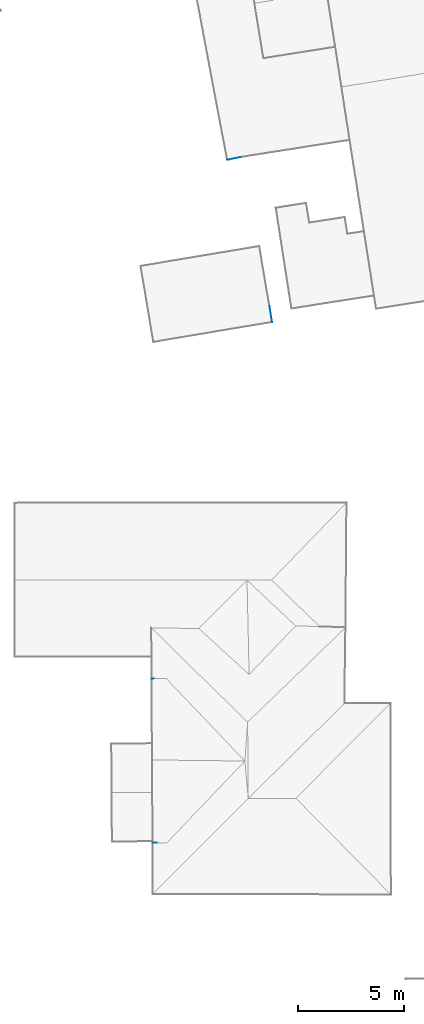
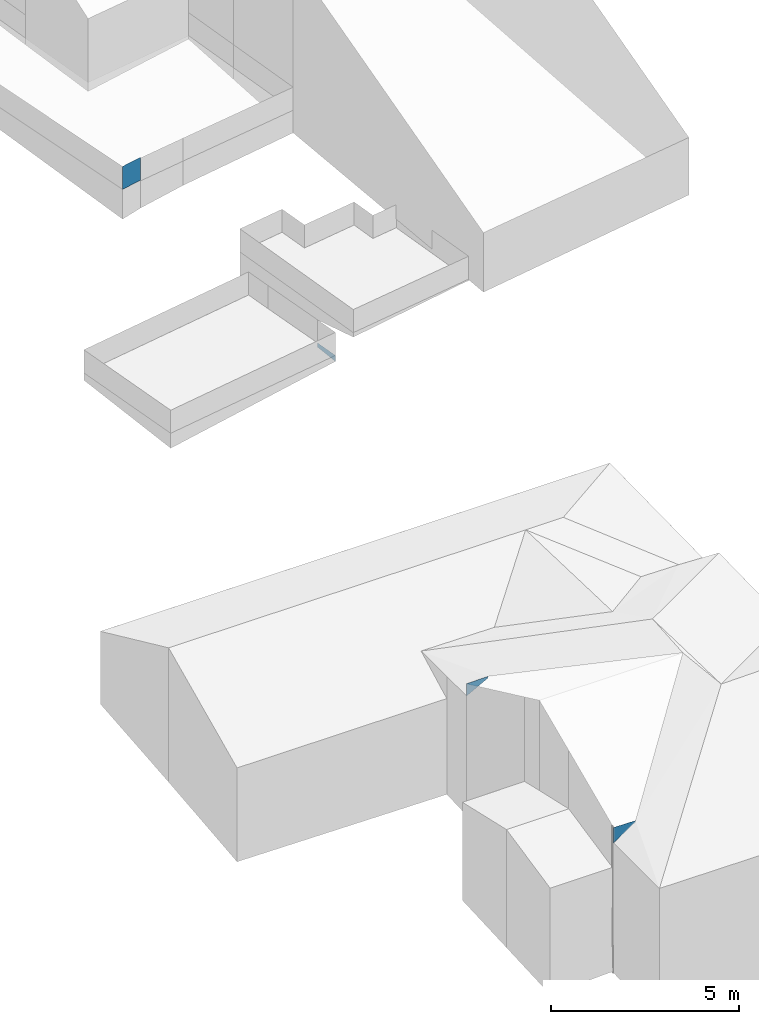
# Not in any storey, part 49 of 57: 5 walls.
"""IFC2X3 building model written with IfcOpenShell, lengths in metres."""

from ifc_helpers import new_model, entity, si_unit, converted_unit, frame, origin, place, context, subcontext, project, spatial, face_set, surface_model, element, save


model = new_model("IFC2X3")

# Units and contexts
model_context = context("Model", 3, precision=1e-05, world=origin())
body_context = subcontext(model_context, "Body", "Model", "MODEL_VIEW")
ifc_project = project(units=[converted_unit("PLANEANGLEUNIT", "DEGREE", entity("IfcRatioMeasure", 0.0174532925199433), si_unit("PLANEANGLEUNIT", "RADIAN"), dimensions=[0, 0, 0, 0, 0, 0, 0]), si_unit("AREAUNIT", "SQUARE_METRE"), si_unit("LENGTHUNIT", "METRE")], contexts=[model_context])

# Site, building
site_placement = place(None, origin())
site = spatial("IfcSite", under=ifc_project, at=site_placement, Name="_site", CompositionType="ELEMENT")
building_1_placement = place(site_placement, origin())
building_1 = spatial("IfcBuilding", under=site, at=building_1_placement, Name="_building", CompositionType="ELEMENT")

# Wall
wall_1_placement = place(building_1_placement, origin())
element("IfcWall", 1, at=wall_1_placement, inside=building_1, Name="Wall", context=body_context, shape_type="SurfaceModel", body=[
    surface_model("IfcFaceBasedSurfaceModel", [(157.86, 227.33, 218.61), (157.98, 226.59, 218.61), (157.98, 226.59, 218.413), (157.86, 227.33, 218.47)], [face_set([[[0, 1, 2, 3]]])]),
])

# Building
building_2_placement = place(site_placement, origin())
building_2 = spatial("IfcBuilding", under=site, at=building_2_placement, Name="_building", CompositionType="ELEMENT")

# Walls
for number, where, name in (
    (2, (0.0, 0.0, 0.0), "Wall"),
    (3, (0.0, 0.0, 0.0), "Wall"),
):
    element("IfcWall", number, at=place(building_2_placement, frame(where)), inside=building_2, Name=name, context=body_context, shape_type="SurfaceModel", body=[
        surface_model("IfcFaceBasedSurfaceModel", [(156.49, 234.391, 220.101), (155.86, 234.26, 220.101), (155.86, 234.26, 220.851), (156.49, 234.391, 220.851)], [face_set([[[0, 1, 2, 3]]])]),
    ])

# Building
building_3_placement = place(site_placement, origin())
building_3 = spatial("IfcBuilding", under=site, at=building_3_placement, Name="_building", CompositionType="ELEMENT")

# Walls
wall_2_placement = place(building_3_placement, origin())
element("IfcWall", 4, at=wall_2_placement, inside=building_3, Name="Wall", context=body_context, shape_type="SurfaceModel", body=[
    surface_model("IfcFaceBasedSurfaceModel", [(152.29, 209.74, 220.14), (152.96, 209.75, 220.14), (152.96, 209.75, 220.09), (152.29, 209.74, 219.74)], [face_set([[[0, 1, 2, 3]]])]),
])
wall_3_placement = place(building_3_placement, origin())
element("IfcWall", 5, at=wall_3_placement, inside=building_3, Name="Wall", context=body_context, shape_type="SurfaceModel", body=[
    surface_model("IfcFaceBasedSurfaceModel", [(153.0, 201.971, 220.15), (152.33, 201.971, 220.16), (152.33, 201.971, 219.66), (153.0, 201.971, 220.1)], [face_set([[[0, 1, 2, 3]]])]),
])

save(model, "model.ifc")
